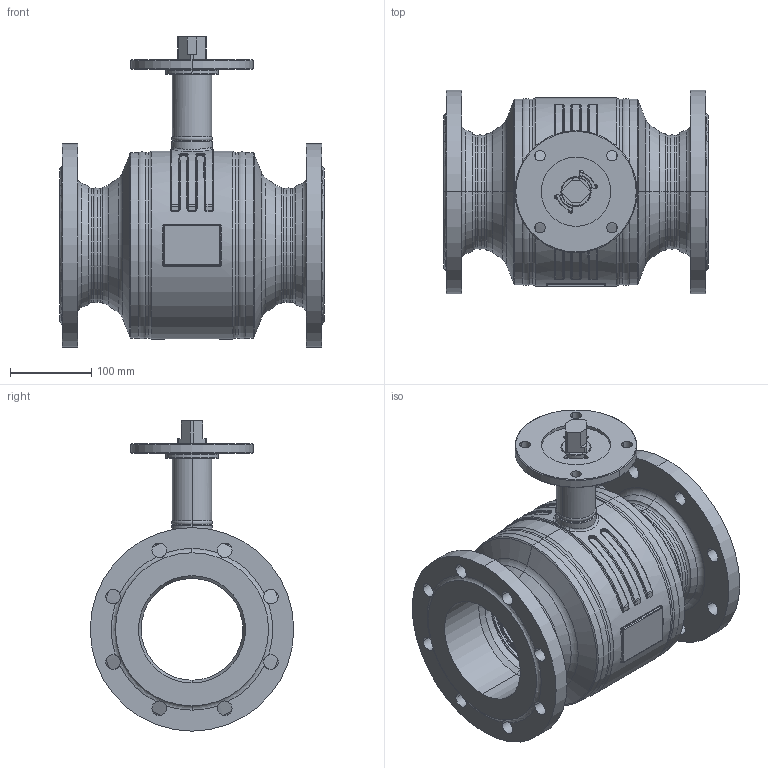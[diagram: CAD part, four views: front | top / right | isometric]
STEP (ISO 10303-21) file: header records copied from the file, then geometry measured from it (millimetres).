
FILE_DESCRIPTION((''),'2;1');
FILE_NAME('KHMO-F-V-H-125P016-VI_SW0001','2025-04-22T16:27:25',('jeitlers'),('KLINGER'),'CREO PARAMETRIC BY PTC INC, 2023014','CREO PARAMETRIC BY PTC INC, 2023014','');
FILE_SCHEMA(('CONFIG_CONTROL_DESIGN'));
Length unit declared in the file: millimetre
Products named in the file (1): KHMO-F-V-H-125P016-VI_SW0001
Bounding box: 325 x 250 x 381 mm (x, y, z)
Volume: 4642737.2 mm3; surface area: 1020951.8 mm2
Topology: 2 solids, 2 shells, 607 faces, 1497 edges, 892 vertices
Faces by surface type: cylinder 222, torus 132, plane 111, cone 82, bspline 52, sphere 8
Entity records: 31441 total; most frequent: CARTESIAN_POINT 16892, DIRECTION 3267, ORIENTED_EDGE 2978, EDGE_CURVE 1489, AXIS2_PLACEMENT_3D 1399, VERTEX_POINT 892, CIRCLE 844, EDGE_LOOP 673
